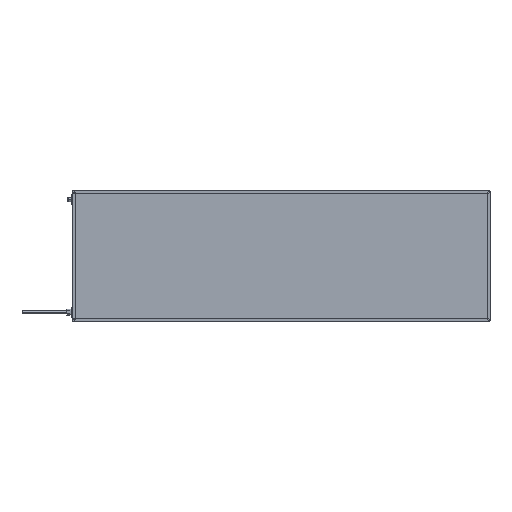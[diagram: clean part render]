
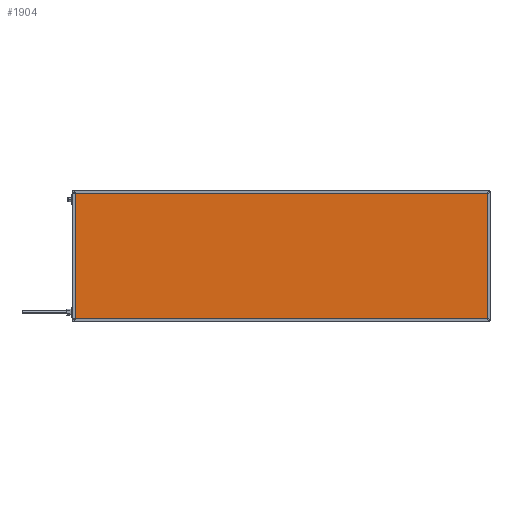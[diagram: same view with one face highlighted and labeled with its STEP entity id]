
A CAD part, top view. The second image highlights one B-rep face of the part: STEP entity #1904.
In plain terms, the highlighted planar face has unit normal (0, 0, 1).
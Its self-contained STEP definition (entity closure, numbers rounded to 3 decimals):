
#169 = DIRECTION ( 'NONE',  ( -1., 0., 0. ) ) ;
#922 = ORIENTED_EDGE ( 'NONE', *, *, #5926, .T. ) ;
#1047 = VERTEX_POINT ( 'NONE', #10793 ) ;
#1782 = EDGE_CURVE ( 'NONE', #11177, #16979, #9837, .T. ) ;
#1809 = LINE ( 'NONE', #7554, #15363 ) ;
#1904 = ADVANCED_FACE ( 'NONE', ( #11724 ), #8887, .F. ) ;
#3432 = EDGE_CURVE ( 'NONE', #13939, #11177, #1809, .T. ) ;
#3826 = CARTESIAN_POINT ( 'NONE',  ( 4., 4., 41.85 ) ) ;
#4886 = CARTESIAN_POINT ( 'NONE',  ( 0., 4., 41.85 ) ) ;
#5114 = ORIENTED_EDGE ( 'NONE', *, *, #10851, .T. ) ;
#5926 = EDGE_CURVE ( 'NONE', #1047, #13939, #6542, .T. ) ;
#6247 = CARTESIAN_POINT ( 'NONE',  ( 0., 0., 41.85 ) ) ;
#6382 = DIRECTION ( 'NONE',  ( 0., 1., 0. ) ) ;
#6542 = LINE ( 'NONE', #9377, #13619 ) ;
#6994 = EDGE_LOOP ( 'NONE', ( #922, #13095, #14132, #5114 ) ) ;
#7554 = CARTESIAN_POINT ( 'NONE',  ( 0., 396., 41.85 ) ) ;
#7811 = LINE ( 'NONE', #4886, #9525 ) ;
#8887 = PLANE ( 'NONE',  #10085 ) ;
#9377 = CARTESIAN_POINT ( 'NONE',  ( 1296., 0., 41.85 ) ) ;
#9525 = VECTOR ( 'NONE', #10455, 1000. ) ;
#9837 = LINE ( 'NONE', #15413, #14452 ) ;
#9940 = DIRECTION ( 'NONE',  ( 0., -1., 0. ) ) ;
#10085 = AXIS2_PLACEMENT_3D ( 'NONE', #6247, #11809, #14460 ) ;
#10455 = DIRECTION ( 'NONE',  ( 1., 0., 0. ) ) ;
#10693 = CARTESIAN_POINT ( 'NONE',  ( 4., 396., 41.85 ) ) ;
#10793 = CARTESIAN_POINT ( 'NONE',  ( 1296., 4., 41.85 ) ) ;
#10851 = EDGE_CURVE ( 'NONE', #16979, #1047, #7811, .T. ) ;
#11177 = VERTEX_POINT ( 'NONE', #10693 ) ;
#11724 = FACE_OUTER_BOUND ( 'NONE', #6994, .T. ) ;
#11809 = DIRECTION ( 'NONE',  ( 0., 0., -1. ) ) ;
#13095 = ORIENTED_EDGE ( 'NONE', *, *, #3432, .T. ) ;
#13619 = VECTOR ( 'NONE', #6382, 1000. ) ;
#13939 = VERTEX_POINT ( 'NONE', #17668 ) ;
#14132 = ORIENTED_EDGE ( 'NONE', *, *, #1782, .T. ) ;
#14452 = VECTOR ( 'NONE', #9940, 1000. ) ;
#14460 = DIRECTION ( 'NONE',  ( -1., 0., 0. ) ) ;
#15363 = VECTOR ( 'NONE', #169, 1000. ) ;
#15413 = CARTESIAN_POINT ( 'NONE',  ( 4., 0., 41.85 ) ) ;
#16979 = VERTEX_POINT ( 'NONE', #3826 ) ;
#17668 = CARTESIAN_POINT ( 'NONE',  ( 1296., 396., 41.85 ) ) ;
